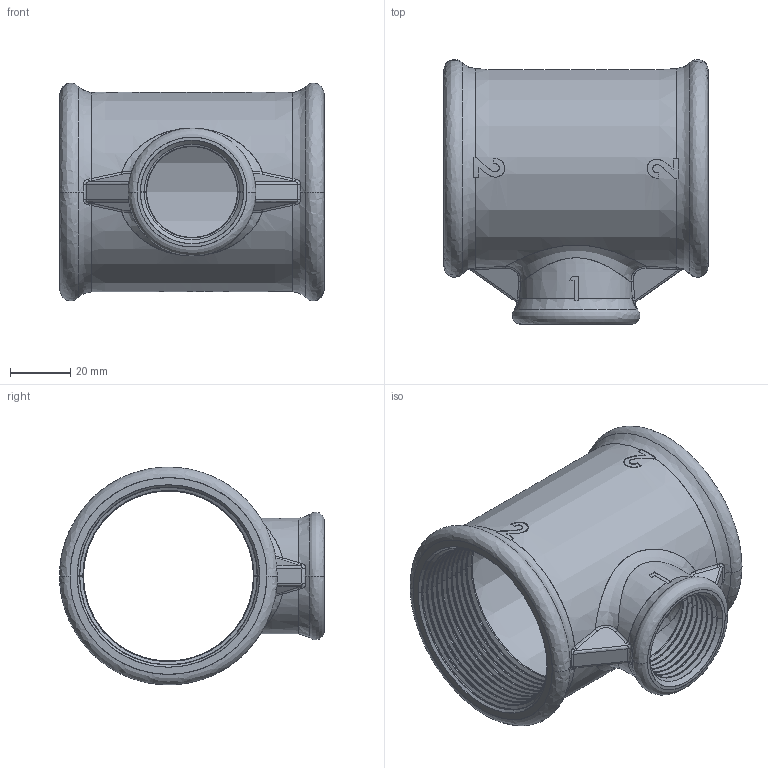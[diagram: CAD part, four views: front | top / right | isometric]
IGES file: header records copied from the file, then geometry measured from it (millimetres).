
Start section: SolidWorks IGES file using analytic representation for surfaces
Global section: file name: C:\Users\Joel Rosa\Desktop\Tubulação\12-45-XXX\12-45-045.IGS; native system: SolidWorks 2011; preprocessor: SolidWorks 2011; author: Joel Rosa; date: 121212.234224; units: millimetre
Bounding box: 88 x 88.3 x 72.58 mm (x, y, z)
Surface area: 47960.8 mm2 (no closed solid volume)
Topology: 0 solids, 0 shells, 461 faces, 4328 edges, 4328 vertices
Faces by surface type: bspline 321, revolution 140
